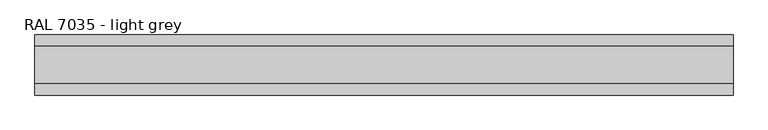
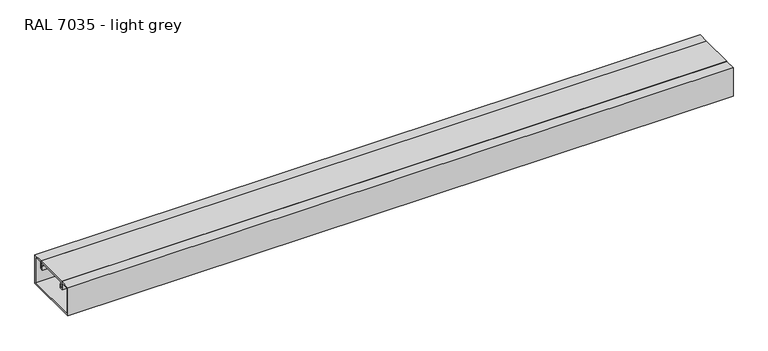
"""IFC4 building model written with IfcOpenShell, lengths in millimetres: proxy geometry, Electrical_Installations_Hager_BRP-Lid-End-Cap-One-Compartment : RAL 7035 - light grey."""

import ifcopenshell
import ifcopenshell.guid

model = None  # the IFC model being written
_history = None  # IfcOwnerHistory: only IFC2X3 demands one
_inside = {}  # id of a spatial element -> (the spatial element, [elements in it])
_under = {}  # id of a project, library or spatial element -> (it, [spatial elements below it])
_declared = {}  # id of a project -> (the project, [libraries it declares])
_typed = {}  # id of a type object -> (the type object, [elements of that type])
_made_of = {}  # id of a material, layer set ... -> (it, [elements and type objects made of it])


def new_model(schema):
    """Start an empty IFC model of exactly this schema.

    Asked for "IFC4X3", IfcOpenShell would pick the latest addendum, in which some entities
    have other attributes; the version numbers below select the first issue.
    IFC2X3 requires an IfcOwnerHistory on every rooted entity: one is made here for all.
    """
    global model, _history
    if schema == "IFC4X3":
        model = ifcopenshell.file(schema_version=(4, 3, 0, 0))
    else:
        model = ifcopenshell.file(schema=schema)
    _inside.clear()
    _under.clear()
    _declared.clear()
    _typed.clear()
    _made_of.clear()
    _history = None
    if model.schema == "IFC2X3":
        org = make("IfcOrganization", Name="unknown")
        user = make(
            "IfcPersonAndOrganization",
            ThePerson=make("IfcPerson", FamilyName="unknown"),
            TheOrganization=org,
        )
        app = make(
            "IfcApplication",
            ApplicationDeveloper=org,
            Version="unknown",
            ApplicationFullName="unknown",
            ApplicationIdentifier="unknown",
        )
        _history = make(
            "IfcOwnerHistory",
            OwningUser=user,
            OwningApplication=app,
            ChangeAction="ADDED",
            CreationDate=0,
        )
    return model


def make(cls, **values):
    """One entity of the class cls with the attributes given. An attribute that is None is left unset."""
    return model.create_entity(
        cls, **{name: value for name, value in values.items() if value is not None}
    )


def rooted(cls, **values):
    """An entity with a GlobalId (a new one), such as an element, a storey or a relation."""
    return make(cls, GlobalId=ifcopenshell.guid.new(), OwnerHistory=_history, **values)


def si_unit(unit_type, name, prefix=None):
    """IfcSIUnit, for example si_unit("LENGTHUNIT", "METRE", prefix="MILLI")."""
    return make("IfcSIUnit", UnitType=unit_type, Prefix=prefix, Name=name)


def assignment(units):
    """IfcUnitAssignment: the units of a project."""
    return None if units is None else make("IfcUnitAssignment", Units=units)


def point(xyz):
    """IfcCartesianPoint."""
    return None if xyz is None else make("IfcCartesianPoint", Coordinates=xyz)


def direction(xyz):
    """IfcDirection."""
    return None if xyz is None else make("IfcDirection", DirectionRatios=xyz)


def frame(location, z_axis=None, x_axis=None):
    """IfcAxis2Placement3D, a coordinate frame: its origin and axes. An axis left out is left unset."""
    return make(
        "IfcAxis2Placement3D",
        Location=point(location),
        Axis=direction(z_axis),
        RefDirection=direction(x_axis),
    )


def origin():
    """The frame at (0, 0, 0) with its axes left unset."""
    return frame((0.0, 0.0, 0.0))


def place(relative_to, where):
    """IfcLocalPlacement: puts the frame where relative to a parent placement (None: the world)."""
    return make(
        "IfcLocalPlacement", PlacementRelTo=relative_to, RelativePlacement=where
    )


def context(
    kind, dimensions, precision=None, world=None, true_north=None, identifier=None
):
    """IfcGeometricRepresentationContext, for example the 3D "Model" context."""
    return make(
        "IfcGeometricRepresentationContext",
        ContextIdentifier=identifier,
        ContextType=kind,
        CoordinateSpaceDimension=dimensions,
        Precision=precision,
        WorldCoordinateSystem=world,
        TrueNorth=true_north,
    )


def project(units=None, contexts=None):
    """IfcProject with its units and contexts."""
    return rooted(
        "IfcProject",
        Name="project",
        RepresentationContexts=contexts,
        UnitsInContext=assignment(units),
    )


def spatial(cls, under=None, at=None, **own):
    """A site, building, storey or space (cls), placed at a placement, below another one or the project."""
    s = rooted(cls, ObjectPlacement=at, **own)
    if under is not None:
        _under.setdefault(under.id(), (under, []))[1].append(s)
    return s


def polyline(points):
    """IfcPolyline through the points."""
    return make("IfcPolyline", Points=[point(p) for p in points])


def outline(outer, holes=None, kind="AREA"):
    """IfcArbitraryClosedProfileDef: a profile drawn as a closed curve; with holes, ...WithVoids."""
    if holes is None:
        return make("IfcArbitraryClosedProfileDef", ProfileType=kind, OuterCurve=outer)
    return make(
        "IfcArbitraryProfileDefWithVoids",
        ProfileType=kind,
        OuterCurve=outer,
        InnerCurves=holes,
    )


def extrude(swept, where, along, depth):
    """IfcExtrudedAreaSolid: the profile swept, set in the frame where, extruded along a direction by depth."""
    return make(
        "IfcExtrudedAreaSolid",
        SweptArea=swept,
        Position=where,
        ExtrudedDirection=direction(along),
        Depth=depth,
    )


def shape(context_of_items, identifier, shape_type, items):
    """IfcShapeRepresentation: the items that make up one representation, for example the "Body"."""
    return make(
        "IfcShapeRepresentation",
        ContextOfItems=context_of_items,
        RepresentationIdentifier=identifier,
        RepresentationType=shape_type,
        Items=items,
    )


def source(mapping_origin, context_of_items, identifier, shape_type, items):
    """IfcRepresentationMap: a shape defined once, which mapped items show again and again."""
    return make(
        "IfcRepresentationMap",
        MappingOrigin=mapping_origin,
        MappedRepresentation=shape(context_of_items, identifier, shape_type, items),
    )


def transform(
    local_origin,
    x_axis=None,
    y_axis=None,
    z_axis=None,
    scale=None,
    scale2=None,
    scale3=None,
    uniform=True,
):
    """IfcCartesianTransformationOperator3D, or its non-uniform kind. x_axis, y_axis, z_axis: its Axis1, 2, 3."""
    if uniform:
        return make(
            "IfcCartesianTransformationOperator3D",
            Axis1=direction(x_axis),
            Axis2=direction(y_axis),
            LocalOrigin=point(local_origin),
            Scale=scale,
            Axis3=direction(z_axis),
        )
    return make(
        "IfcCartesianTransformationOperator3DnonUniform",
        Axis1=direction(x_axis),
        Axis2=direction(y_axis),
        LocalOrigin=point(local_origin),
        Scale=scale,
        Axis3=direction(z_axis),
        Scale2=scale2,
        Scale3=scale3,
    )


def mapped(mapping_source, mapping_target):
    """IfcMappedItem: shows the shape of a source again, moved by a transform."""
    return make(
        "IfcMappedItem", MappingSource=mapping_source, MappingTarget=mapping_target
    )


def made_of(thing, what):
    """Note that an element or type object is made of a material, layer set ...; save() writes the relation."""
    if what is not None:
        _made_of.setdefault(what.id(), (what, []))[1].append(thing)
    return thing


def element(
    cls,
    number,
    at=None,
    inside=None,
    cuts=None,
    type_object=None,
    material=None,
    context=None,
    identifier="Body",
    shape_type=None,
    held_by="IfcProductDefinitionShape",
    body=None,
    shapes=None,
    **own,
):
    """One element of the class cls, such as IfcWall. Its Tag is "e" and its number.

    at: its placement. inside: the storey or other place that contains it. cuts: it is an
    opening in that element (IfcRelVoidsElement). A single representation is given by context,
    identifier, shape_type and body (its items); several are given by shapes. held_by: the class
    of the entity that holds the representations. save() writes the other relations.
    """
    e = rooted(cls, Tag="e%d" % number, ObjectPlacement=at, **own)
    if body is not None:
        shapes = [shape(context, identifier, shape_type, body)]
    if shapes is not None:
        e.Representation = make(held_by, Representations=shapes)
    if inside is not None:
        _inside.setdefault(inside.id(), (inside, []))[1].append(e)
    if cuts is not None:
        rooted(
            "IfcRelVoidsElement", RelatingBuildingElement=cuts, RelatedOpeningElement=e
        )
    if type_object is not None:
        _typed.setdefault(type_object.id(), (type_object, []))[1].append(e)
    return made_of(e, material)


def aggregate(whole, parts):
    """IfcRelAggregates: a whole, such as a stair, and the parts it consists of."""
    return rooted("IfcRelAggregates", RelatingObject=whole, RelatedObjects=parts)


def save(model, path):
    """Write the relations noted so far, then the file.

    IfcRelAggregates (storeys below a building ...), IfcRelContainedInSpatialStructure (elements
    in a storey), IfcRelDefinesByType, IfcRelAssociatesMaterial and IfcRelDeclares: one each for
    every whole, place, type object, material and project.
    """
    for whole, parts in _under.values():
        aggregate(whole, parts)
    for where, things in _inside.values():
        rooted(
            "IfcRelContainedInSpatialStructure",
            RelatedElements=things,
            RelatingStructure=where,
        )
    for kind, things in _typed.values():
        rooted("IfcRelDefinesByType", RelatedObjects=things, RelatingType=kind)
    for what, things in _made_of.values():
        rooted("IfcRelAssociatesMaterial", RelatedObjects=things, RelatingMaterial=what)
    for by, libraries in _declared.values():
        rooted("IfcRelDeclares", RelatingContext=by, RelatedDefinitions=libraries)
    model.write(path)


def ral_7035_light_grey_f50f6097(model_context):
    return source(origin(), model_context, "Body", "SweptSolid", [
        extrude(outline(polyline([(40.0, 18.6492509), (37.5361498, 18.6492509), (37.5361498, 30.0), (-37.5361498, 30.0), (-37.5361498, 18.6492509), (-40.0, 18.6492509), (-40.0, 33.0), (40.0, 33.0), (40.0, 18.6492509)])), frame((0.0, 0.0, 0.0), z_axis=(1.0, 0.0, 0.0), x_axis=(0.0, 1.0, 0.0)), (0.0, 0.0, 1.0), 1510.0),
        extrude(outline(polyline([(65.0, 33.0), (65.0, -35.0582587), (-65.0, -35.0582587), (-65.0, 33.0), (-40.5, 33.0), (-40.5, 16.0), (-36.578125, 16.0), (-36.578125, 24.0415809), (-35.3, 24.0415809), (-35.3, 14.0), (-42.5, 14.0), (-42.5, 30.0), (-62.0, 30.0), (-62.0, -32.0582587), (62.0, -32.0582587), (62.0, 30.0), (42.5, 30.0), (42.5, 14.0), (35.221875, 14.0), (35.221875, 24.0415809), (36.5, 24.0415809), (36.5, 16.0), (40.5, 16.0), (40.5, 33.0), (65.0, 33.0)])), frame((0.0, 0.0, 0.0), z_axis=(1.0, 0.0, 0.0), x_axis=(0.0, 1.0, 0.0)), (0.0, 0.0, 1.0), 1510.0),
    ])


if __name__ == "__main__":
    model = new_model("IFC4")
    model_context = context("Model", 3, world=origin())
    ifc_project = project(units=[si_unit("LENGTHUNIT", "METRE", prefix="MILLI")], contexts=[model_context])
    site = spatial("IfcSite", under=ifc_project)
    building = spatial("IfcBuilding", under=site)
    placement = place(None, origin())
    ral_7035_light_grey_shape = ral_7035_light_grey_f50f6097(model_context)
    element("IfcBuildingElementProxy", 1, Name="Electrical_Installations_Hager_BRP-Lid-End-Cap-One-Compartment : RAL 7035 - light grey", ObjectType="Electrical_Installations_Hager_BRP-Lid-End-Cap-One-Compartment : RAL 7035 - light grey", at=placement, inside=building, context=model_context, shape_type="MappedRepresentation", body=[
        mapped(ral_7035_light_grey_shape, transform((0.0, 0.0, 0.0), x_axis=(1.0, 0.0, 0.0), y_axis=(0.0, 1.0, 0.0), z_axis=(0.0, 0.0, 1.0))),
    ])
    save(model, "model.ifc")
